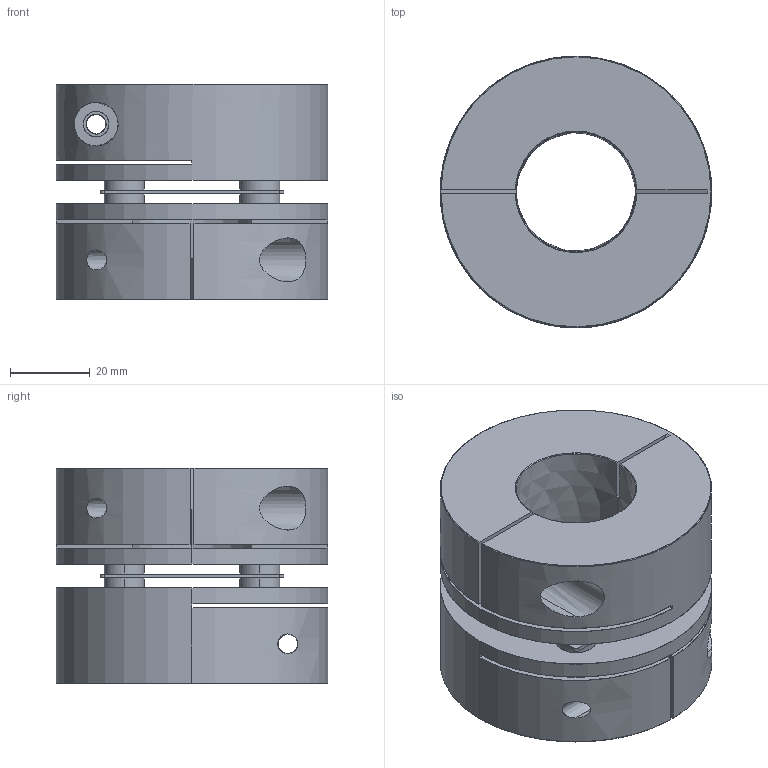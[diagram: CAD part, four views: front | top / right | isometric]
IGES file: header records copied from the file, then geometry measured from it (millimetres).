
Start section: SolidWorks IGES file using analytic representation for surfaces
Bounding box: 68 x 68 x 54 mm (x, y, z)
Surface area: 37901.1 mm2 (no closed solid volume)
Topology: 0 solids, 0 shells, 87 faces, 2340 edges, 2340 vertices
Faces by surface type: revolution 55, bspline 32
